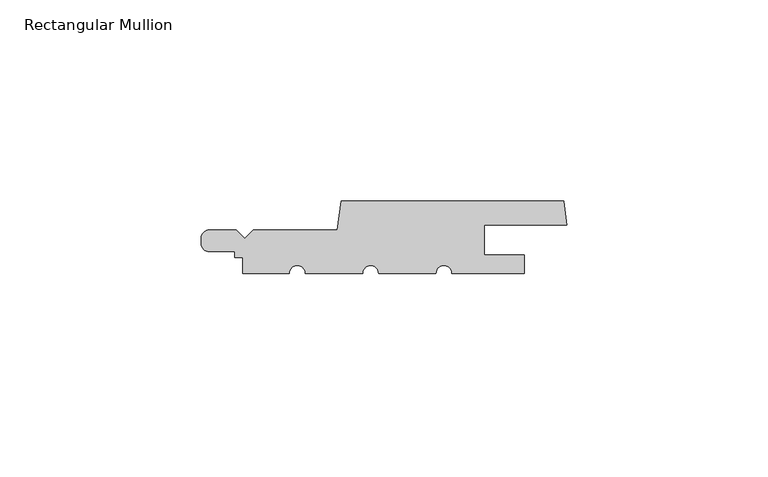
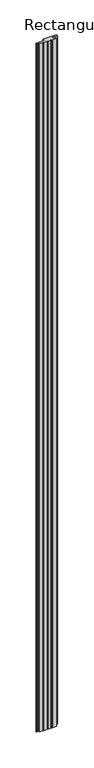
"""IFC4 building model written with IfcOpenShell, lengths in millimetres: member geometry, Rectangular Mullion : Cladding_Timber_Modinex_Channel_70_AlaskanYellowCedar."""

from ifc_helpers import new_model, si_unit, point, frame, frame_2d, origin, place, context, project, spatial, polyline, circle_curve, trimmed, segment, composite_curve, outline, extrude, source, transform, mapped, element, save


def rectangular_mullion_3ccf6a3d(model_context):
    return source(origin(), model_context, "Body", "SweptSolid", [
        extrude(outline(composite_curve([segment(polyline([(2.6253508, 10.8203707), (23.4689814, 10.8203707), (24.4780125, 18.0), (79.781259, 18.0), (80.5153107, 12.0216293), (60.0, 12.0216293), (60.0, 4.5527021), (70.0, 4.5527021), (70.0, 0.0), (52.0, 0.0)]), True, "CONTINUOUS"), segment(trimmed(circle_curve(frame_2d((50.0, 0.0)), 2.0), [point((52.0, 0.0))], [point((48.0, 0.0))], True, "CARTESIAN"), True, "CONTINUOUS"), segment(polyline([(48.0, 0.0), (33.7560899, 0.0)]), True, "CONTINUOUS"), segment(trimmed(circle_curve(frame_2d((31.7812882, 0.0)), 1.9748017), [point((33.7560899, 0.0))], [point((29.8064865, 0.0))], True, "CARTESIAN"), True, "CONTINUOUS"), segment(polyline([(29.8064865, 0.0), (15.5373781, 0.0)]), True, "CONTINUOUS"), segment(trimmed(circle_curve(frame_2d((13.5625764, 0.0)), 1.9748017), [point((15.5373781, 0.0))], [point((11.5877747, 0.0))], True, "CARTESIAN"), True, "CONTINUOUS"), segment(polyline([(11.5877747, 0.0), (0.0, 0.0), (0.0, 3.9720296), (-2.005786, 3.9720296), (-2.005786, 5.4241103), (-8.3313367, 5.4241103)]), True, "CONTINUOUS"), segment(trimmed(circle_curve(frame_2d((-8.3313367, 7.388134)), 1.9640237), [point((-8.3313367, 5.4241103))], [point((-10.2953604, 7.388134))], False, "CARTESIAN"), True, "CONTINUOUS"), segment(polyline([(-10.2953604, 7.388134), (-10.2953604, 8.803382)]), True, "CONTINUOUS"), segment(trimmed(circle_curve(frame_2d((-8.2783718, 8.803382)), 2.0169887), [point((-10.2953604, 8.803382))], [point((-8.2783718, 10.8203707))], False, "CARTESIAN"), True, "CONTINUOUS"), segment(polyline([(-8.2783718, 10.8203707), (-1.5484934, 10.8203707), (0.5384287, 8.7334486), (2.6253508, 10.8203707)]), True, "CONTINUOUS")], self_intersect=False)), frame((0.0, 0.0, -3000.0), z_axis=(0.0, 0.0, 1.0), x_axis=(1.0, 0.0, 0.0)), (0.0, 0.0, 1.0), 3000.0),
    ])


if __name__ == "__main__":
    model = new_model("IFC4")
    model_context = context("Model", 3, world=origin())
    ifc_project = project(units=[si_unit("LENGTHUNIT", "METRE", prefix="MILLI")], contexts=[model_context])
    site = spatial("IfcSite", under=ifc_project)
    building = spatial("IfcBuilding", under=site)
    placement = place(None, origin())
    rectangular_mullion_shape = rectangular_mullion_3ccf6a3d(model_context)
    element("IfcMember", 1, ObjectType="Rectangular Mullion : Cladding_Timber_Modinex_Channel_70_AlaskanYellowCedar", at=placement, inside=building, context=model_context, shape_type="MappedRepresentation", body=[
        mapped(rectangular_mullion_shape, transform((0.0, 0.0, 0.0), x_axis=(1.0, 0.0, 0.0), y_axis=(0.0, 1.0, 0.0), z_axis=(0.0, 0.0, 1.0))),
    ])
    save(model, "model.ifc")
